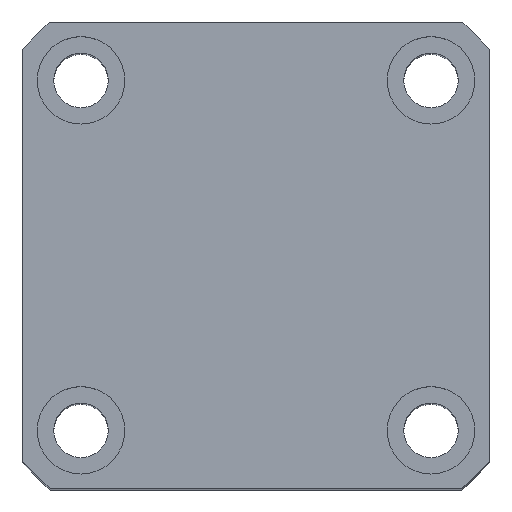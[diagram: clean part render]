
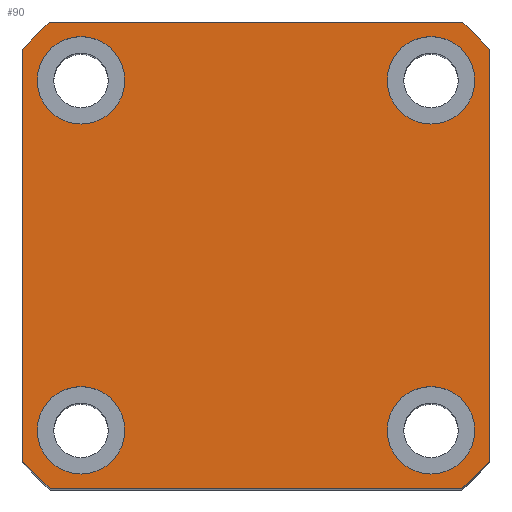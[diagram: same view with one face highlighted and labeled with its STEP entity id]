
A CAD part, top view. The second image highlights one B-rep face of the part: STEP entity #90.
In plain terms, the highlighted planar face has unit normal (0, 0, 1) as drawn and (1, 0, 0) by its records, which use the part's own axes.
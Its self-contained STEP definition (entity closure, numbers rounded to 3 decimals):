
#49 = AXIS2_PLACEMENT_3D ( 'NONE', #6286, #2601, #6880 ) ;
#66 = CIRCLE ( 'NONE', #6122, 4.5 ) ;
#90 = ADVANCED_FACE ( 'NONE', ( #7030, #455, #4004, #644, #3800 ), #6517, .T. ) ;
#150 = VERTEX_POINT ( 'NONE', #2509 ) ;
#318 = CIRCLE ( 'NONE', #5275, 4.5 ) ;
#448 = CARTESIAN_POINT ( 'NONE',  ( 80., 0., 0. ) ) ;
#455 = FACE_BOUND ( 'NONE', #3398, .T. ) ;
#518 = DIRECTION ( 'NONE',  ( 0., 0., 1. ) ) ;
#535 = EDGE_CURVE ( 'NONE', #6349, #640, #7199, .T. ) ;
#593 = VERTEX_POINT ( 'NONE', #2747 ) ;
#640 = VERTEX_POINT ( 'NONE', #7925 ) ;
#644 = FACE_BOUND ( 'NONE', #5812, .T. ) ;
#703 = DIRECTION ( 'NONE',  ( 0., 0., -1. ) ) ;
#709 = CIRCLE ( 'NONE', #5653, 32. ) ;
#773 = DIRECTION ( 'NONE',  ( 1., 0., 0. ) ) ;
#775 = AXIS2_PLACEMENT_3D ( 'NONE', #448, #3144, #3953 ) ;
#848 = DIRECTION ( 'NONE',  ( 1., 0., 0. ) ) ;
#861 = CARTESIAN_POINT ( 'NONE',  ( 80., 0., 0. ) ) ;
#917 = EDGE_CURVE ( 'NONE', #5834, #2600, #6082, .T. ) ;
#946 = CARTESIAN_POINT ( 'NONE',  ( 80., -21.166, 24. ) ) ;
#1023 = AXIS2_PLACEMENT_3D ( 'NONE', #4059, #1576, #6014 ) ;
#1025 = EDGE_CURVE ( 'NONE', #2600, #3767, #6549, .T. ) ;
#1034 = AXIS2_PLACEMENT_3D ( 'NONE', #6767, #3133, #7363 ) ;
#1069 = VERTEX_POINT ( 'NONE', #3546 ) ;
#1276 = EDGE_CURVE ( 'NONE', #2848, #6375, #2302, .T. ) ;
#1295 = VECTOR ( 'NONE', #4851, 1000. ) ;
#1332 = AXIS2_PLACEMENT_3D ( 'NONE', #5138, #1384, #5738 ) ;
#1384 = DIRECTION ( 'NONE',  ( 1., 0., 0. ) ) ;
#1489 = CIRCLE ( 'NONE', #1332, 4.5 ) ;
#1494 = EDGE_CURVE ( 'NONE', #6375, #7793, #2102, .T. ) ;
#1576 = DIRECTION ( 'NONE',  ( 1., 0., 0. ) ) ;
#1760 = CARTESIAN_POINT ( 'NONE',  ( 80., -24., -21.166 ) ) ;
#1822 = CARTESIAN_POINT ( 'NONE',  ( 80., 0., 0. ) ) ;
#1899 = CARTESIAN_POINT ( 'NONE',  ( 80., 18., 18. ) ) ;
#1967 = CARTESIAN_POINT ( 'NONE',  ( 80., 18., -18. ) ) ;
#1984 = CARTESIAN_POINT ( 'NONE',  ( 80., -18., 18. ) ) ;
#2000 = DIRECTION ( 'NONE',  ( 1., 0., 0. ) ) ;
#2063 = DIRECTION ( 'NONE',  ( 0., 0., -1. ) ) ;
#2102 = CIRCLE ( 'NONE', #1023, 32. ) ;
#2175 = AXIS2_PLACEMENT_3D ( 'NONE', #1967, #2000, #2063 ) ;
#2302 = LINE ( 'NONE', #7940, #4359 ) ;
#2432 = AXIS2_PLACEMENT_3D ( 'NONE', #861, #773, #703 ) ;
#2463 = DIRECTION ( 'NONE',  ( 0., 0., -1. ) ) ;
#2509 = CARTESIAN_POINT ( 'NONE',  ( 80., -18., -22.5 ) ) ;
#2546 = DIRECTION ( 'NONE',  ( 0., 0., -1. ) ) ;
#2600 = VERTEX_POINT ( 'NONE', #6952 ) ;
#2601 = DIRECTION ( 'NONE',  ( 1., 0., 0. ) ) ;
#2634 = DIRECTION ( 'NONE',  ( 0., 0., -1. ) ) ;
#2747 = CARTESIAN_POINT ( 'NONE',  ( 80., -18., -13.5 ) ) ;
#2823 = DIRECTION ( 'NONE',  ( 1., 0., 0. ) ) ;
#2848 = VERTEX_POINT ( 'NONE', #4803 ) ;
#2984 = VECTOR ( 'NONE', #3442, 1000. ) ;
#3102 = VECTOR ( 'NONE', #3490, 1000. ) ;
#3133 = DIRECTION ( 'NONE',  ( 1., 0., 0. ) ) ;
#3144 = DIRECTION ( 'NONE',  ( 1., 0., 0. ) ) ;
#3335 = CARTESIAN_POINT ( 'NONE',  ( 80., 0., 0. ) ) ;
#3398 = EDGE_LOOP ( 'NONE', ( #6532, #6550 ) ) ;
#3427 = VERTEX_POINT ( 'NONE', #6858 ) ;
#3442 = DIRECTION ( 'NONE',  ( 0., 0., -1. ) ) ;
#3490 = DIRECTION ( 'NONE',  ( 0., 1., 0. ) ) ;
#3497 = EDGE_CURVE ( 'NONE', #5684, #7290, #3578, .T. ) ;
#3546 = CARTESIAN_POINT ( 'NONE',  ( 80., -18., 22.5 ) ) ;
#3578 = CIRCLE ( 'NONE', #7810, 32. ) ;
#3615 = EDGE_CURVE ( 'NONE', #7793, #5684, #7629, .T. ) ;
#3684 = EDGE_CURVE ( 'NONE', #3767, #2848, #709, .T. ) ;
#3744 = EDGE_CURVE ( 'NONE', #3427, #4566, #318, .T. ) ;
#3761 = CARTESIAN_POINT ( 'NONE',  ( 80., 24., -24. ) ) ;
#3767 = VERTEX_POINT ( 'NONE', #5649 ) ;
#3788 = EDGE_CURVE ( 'NONE', #640, #6349, #3866, .T. ) ;
#3800 = FACE_OUTER_BOUND ( 'NONE', #5516, .T. ) ;
#3803 = EDGE_CURVE ( 'NONE', #5924, #1069, #5117, .T. ) ;
#3816 = EDGE_CURVE ( 'NONE', #150, #593, #1489, .T. ) ;
#3866 = CIRCLE ( 'NONE', #49, 4.5 ) ;
#3895 = ORIENTED_EDGE ( 'NONE', *, *, #3816, .F. ) ;
#3906 = ORIENTED_EDGE ( 'NONE', *, *, #4904, .F. ) ;
#3953 = DIRECTION ( 'NONE',  ( 0., 0., -1. ) ) ;
#3963 = DIRECTION ( 'NONE',  ( 0., 0., -1. ) ) ;
#4004 = FACE_BOUND ( 'NONE', #5991, .T. ) ;
#4009 = EDGE_CURVE ( 'NONE', #7290, #5834, #5867, .T. ) ;
#4059 = CARTESIAN_POINT ( 'NONE',  ( 80., 0., 0. ) ) ;
#4359 = VECTOR ( 'NONE', #518, 1000. ) ;
#4377 = CARTESIAN_POINT ( 'NONE',  ( 80., -24., 21.166 ) ) ;
#4566 = VERTEX_POINT ( 'NONE', #6485 ) ;
#4579 = CARTESIAN_POINT ( 'NONE',  ( 80., -18., -18. ) ) ;
#4803 = CARTESIAN_POINT ( 'NONE',  ( 80., 24., -21.166 ) ) ;
#4820 = CIRCLE ( 'NONE', #1034, 4.5 ) ;
#4851 = DIRECTION ( 'NONE',  ( 0., -1., 0. ) ) ;
#4904 = EDGE_CURVE ( 'NONE', #4566, #3427, #4820, .T. ) ;
#5022 = CARTESIAN_POINT ( 'NONE',  ( 80., -18., 13.5 ) ) ;
#5117 = CIRCLE ( 'NONE', #7658, 4.5 ) ;
#5138 = CARTESIAN_POINT ( 'NONE',  ( 80., -18., -18. ) ) ;
#5212 = DIRECTION ( 'NONE',  ( 0., 0., -1. ) ) ;
#5268 = CARTESIAN_POINT ( 'NONE',  ( 80., 24., 21.166 ) ) ;
#5275 = AXIS2_PLACEMENT_3D ( 'NONE', #1899, #6231, #2546 ) ;
#5280 = ORIENTED_EDGE ( 'NONE', *, *, #3615, .T. ) ;
#5290 = ORIENTED_EDGE ( 'NONE', *, *, #4009, .T. ) ;
#5516 = EDGE_LOOP ( 'NONE', ( #6276, #7152, #5740, #6498, #5280, #7319, #5290, #7401 ) ) ;
#5649 = CARTESIAN_POINT ( 'NONE',  ( 80., 21.166, -24. ) ) ;
#5653 = AXIS2_PLACEMENT_3D ( 'NONE', #1822, #6155, #2463 ) ;
#5684 = VERTEX_POINT ( 'NONE', #946 ) ;
#5738 = DIRECTION ( 'NONE',  ( 0., 0., -1. ) ) ;
#5740 = ORIENTED_EDGE ( 'NONE', *, *, #1276, .T. ) ;
#5812 = EDGE_LOOP ( 'NONE', ( #6474, #3906 ) ) ;
#5834 = VERTEX_POINT ( 'NONE', #1760 ) ;
#5867 = LINE ( 'NONE', #7661, #2984 ) ;
#5924 = VERTEX_POINT ( 'NONE', #5022 ) ;
#5991 = EDGE_LOOP ( 'NONE', ( #6645, #6362 ) ) ;
#6014 = DIRECTION ( 'NONE',  ( 0., 0., -1. ) ) ;
#6082 = CIRCLE ( 'NONE', #2432, 32. ) ;
#6122 = AXIS2_PLACEMENT_3D ( 'NONE', #4579, #848, #5212 ) ;
#6155 = DIRECTION ( 'NONE',  ( 1., 0., 0. ) ) ;
#6231 = DIRECTION ( 'NONE',  ( 1., 0., 0. ) ) ;
#6238 = EDGE_CURVE ( 'NONE', #593, #150, #66, .T. ) ;
#6246 = EDGE_LOOP ( 'NONE', ( #3895, #6731 ) ) ;
#6276 = ORIENTED_EDGE ( 'NONE', *, *, #1025, .T. ) ;
#6286 = CARTESIAN_POINT ( 'NONE',  ( 80., 18., -18. ) ) ;
#6314 = DIRECTION ( 'NONE',  ( 1., 0., 0. ) ) ;
#6349 = VERTEX_POINT ( 'NONE', #6447 ) ;
#6362 = ORIENTED_EDGE ( 'NONE', *, *, #535, .F. ) ;
#6375 = VERTEX_POINT ( 'NONE', #5268 ) ;
#6404 = EDGE_CURVE ( 'NONE', #1069, #5924, #7882, .T. ) ;
#6447 = CARTESIAN_POINT ( 'NONE',  ( 80., 18., -13.5 ) ) ;
#6474 = ORIENTED_EDGE ( 'NONE', *, *, #3744, .F. ) ;
#6485 = CARTESIAN_POINT ( 'NONE',  ( 80., 18., 22.5 ) ) ;
#6494 = CARTESIAN_POINT ( 'NONE',  ( 80., -18., 18. ) ) ;
#6498 = ORIENTED_EDGE ( 'NONE', *, *, #1494, .T. ) ;
#6517 = PLANE ( 'NONE',  #775 ) ;
#6532 = ORIENTED_EDGE ( 'NONE', *, *, #3803, .F. ) ;
#6549 = LINE ( 'NONE', #3761, #3102 ) ;
#6550 = ORIENTED_EDGE ( 'NONE', *, *, #6404, .F. ) ;
#6645 = ORIENTED_EDGE ( 'NONE', *, *, #3788, .F. ) ;
#6731 = ORIENTED_EDGE ( 'NONE', *, *, #6238, .F. ) ;
#6767 = CARTESIAN_POINT ( 'NONE',  ( 80., 18., 18. ) ) ;
#6843 = CARTESIAN_POINT ( 'NONE',  ( 80., 21.166, 24. ) ) ;
#6858 = CARTESIAN_POINT ( 'NONE',  ( 80., 18., 13.5 ) ) ;
#6880 = DIRECTION ( 'NONE',  ( 0., 0., -1. ) ) ;
#6952 = CARTESIAN_POINT ( 'NONE',  ( 80., -21.166, -24. ) ) ;
#7030 = FACE_BOUND ( 'NONE', #6246, .T. ) ;
#7090 = DIRECTION ( 'NONE',  ( 0., 0., -1. ) ) ;
#7152 = ORIENTED_EDGE ( 'NONE', *, *, #3684, .T. ) ;
#7199 = CIRCLE ( 'NONE', #2175, 4.5 ) ;
#7290 = VERTEX_POINT ( 'NONE', #4377 ) ;
#7319 = ORIENTED_EDGE ( 'NONE', *, *, #3497, .T. ) ;
#7363 = DIRECTION ( 'NONE',  ( 0., 0., -1. ) ) ;
#7401 = ORIENTED_EDGE ( 'NONE', *, *, #917, .T. ) ;
#7560 = DIRECTION ( 'NONE',  ( 1., 0., 0. ) ) ;
#7629 = LINE ( 'NONE', #7823, #1295 ) ;
#7658 = AXIS2_PLACEMENT_3D ( 'NONE', #1984, #6314, #2634 ) ;
#7661 = CARTESIAN_POINT ( 'NONE',  ( 80., -24., 24. ) ) ;
#7717 = AXIS2_PLACEMENT_3D ( 'NONE', #6494, #2823, #7090 ) ;
#7793 = VERTEX_POINT ( 'NONE', #6843 ) ;
#7810 = AXIS2_PLACEMENT_3D ( 'NONE', #3335, #7560, #3963 ) ;
#7823 = CARTESIAN_POINT ( 'NONE',  ( 80., 24., 24. ) ) ;
#7882 = CIRCLE ( 'NONE', #7717, 4.5 ) ;
#7925 = CARTESIAN_POINT ( 'NONE',  ( 80., 18., -22.5 ) ) ;
#7940 = CARTESIAN_POINT ( 'NONE',  ( 80., 24., 24. ) ) ;
